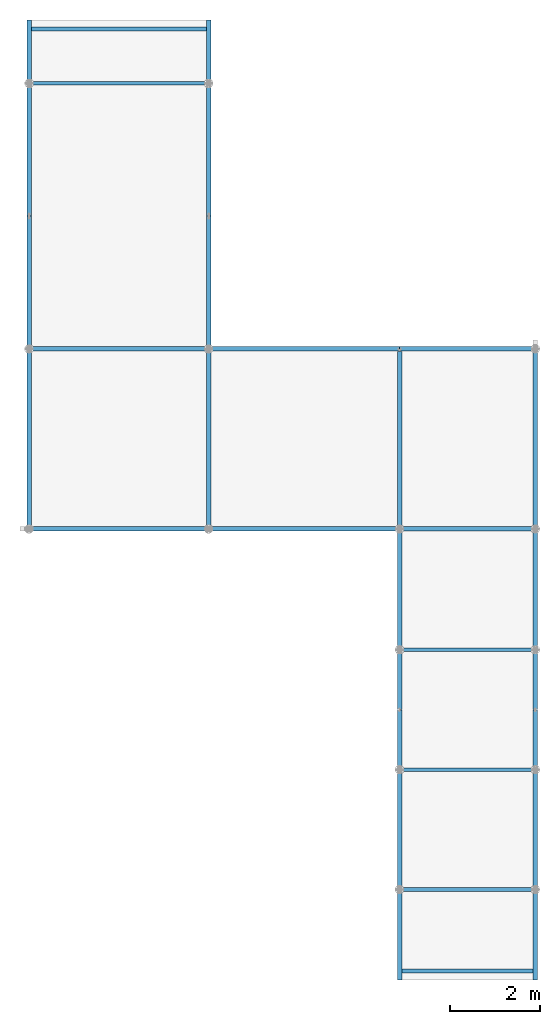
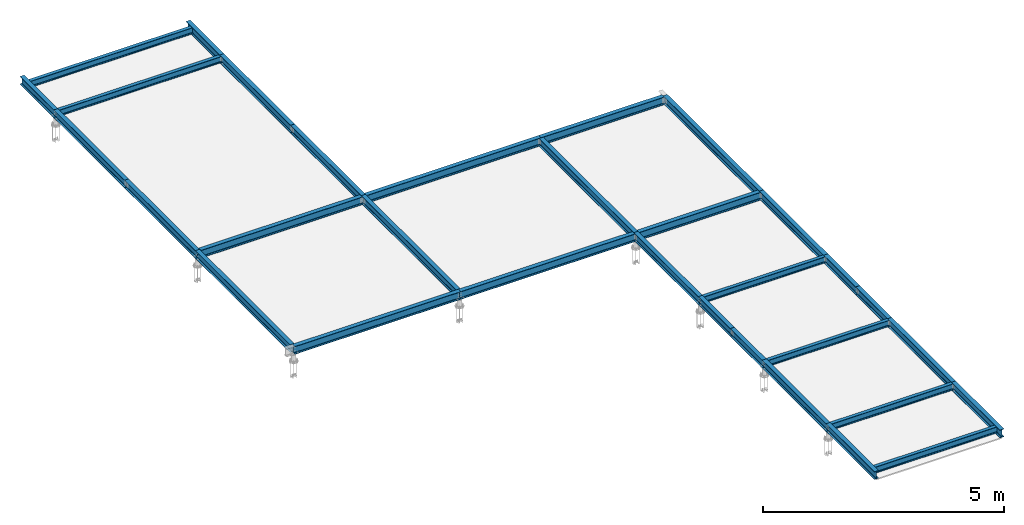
# One storey, part 4 of 84: 32 beams.
"""IFC4 building model written with IfcOpenShell, lengths in metres."""

from ifc_helpers import new_model, si_unit, frame, origin_with_axes, origin_2d_with_axis, place, context, project, spatial, polyline, i_section, extrude, clip, halfspace, bounded_halfspace, material, material_profile, profile_set, profile_usage, type_object, element, save


model = new_model("IFC4")

# Units and contexts
model_context = context("Model", 3, precision=1e-05, world=origin_with_axes())
ifc_project = project(units=[si_unit("LENGTHUNIT", "METRE"), si_unit("AREAUNIT", "SQUARE_METRE"), si_unit("VOLUMEUNIT", "CUBIC_METRE"), si_unit("MASSUNIT", "GRAM", prefix="KILO"), si_unit("TIMEUNIT", "SECOND"), si_unit("PLANEANGLEUNIT", "RADIAN"), si_unit("SOLIDANGLEUNIT", "STERADIAN"), si_unit("THERMODYNAMICTEMPERATUREUNIT", "DEGREE_CELSIUS")], contexts=[model_context])

# Site, building, storey
placement_1 = place(None, origin_with_axes())
site = spatial("IfcSite", under=ifc_project, at=placement_1, Name="Italia", CompositionType="ELEMENT")
building = spatial("IfcBuilding", under=site, at=placement_1, Name="Tettoia", CompositionType="ELEMENT")
storey_placement = place(None, frame((0.0, 0.0, 4.199999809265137), z_axis=(0.0, 0.0, 1.0), x_axis=(1.0, 0.0, 0.0)))
storey = spatial("IfcBuildingStorey", under=building, at=storey_placement, Name="Storey 1", CompositionType="ELEMENT", Elevation=4.199999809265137)

# Beams
ifc_material = material(Name="Acciaio", Category="Acciaio")
ifc_material_profile = material_profile(ifc_material, i_section(OverallWidth=0.082, OverallDepth=0.16, WebThickness=0.005, FlangeThickness=0.0074, FilletRadius=0.009, at=origin_2d_with_axis()), Name="3 IPE160")
ifc_profile_set = profile_set([ifc_material_profile])
beam_type_1 = type_object("IfcBeamType", Name="3 IPE160", PredefinedType="BEAM", material=ifc_profile_set)
placement_2 = place(placement_1, origin_with_axes())
beam_1_placement = place(placement_2, frame((11.283202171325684, 2.000000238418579, 4.299999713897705), z_axis=(0.0, 0.0, 1.0), x_axis=(1.0, 0.0, 0.0)))
element("IfcBeam", 1, at=beam_1_placement, inside=storey, type_object=beam_type_1, Name="102", context=model_context, shape_type="Clipping", body=[
    clip(clip(extrude(i_section(OverallWidth=0.082, OverallDepth=0.16, WebThickness=0.005, FlangeThickness=0.0074, FilletRadius=0.009, at=origin_2d_with_axis()), frame((0.0, 0.0, 0.0), z_axis=(-1.0, 0.0, 0.0), x_axis=(0.0, -1.0, 0.0)), (0.0, 0.0, 1.0), 2.9864), bounded_halfspace(frame((0.0, 0.0, 0.0), z_axis=(-1.0, 0.0, 0.0), x_axis=(0.0, -1.0, 0.0)), True, frame((-1.90735e-06, -0.0410002, 0.0799999), z_axis=(-1.0, 0.0, 0.0), x_axis=(0.0, -1.0, 0.0)), polyline([(-0.0829999, -0.161), (0.001, -0.161), (0.001, 0.001), (-0.0829999, 0.001), (-0.0829999, -0.161)]))), bounded_halfspace(frame((-2.9864, 0.0, 0.0), z_axis=(-1.0, 0.0, 0.0), x_axis=(0.0, -1.0, 0.0)), False, frame((-2.9864, -0.0410002, 0.0799999), z_axis=(-1.0, 0.0, 0.0), x_axis=(0.0, -1.0, 0.0)), polyline([(-0.0829999, -0.161), (0.001, -0.161), (0.001, 0.001), (-0.0829999, 0.001), (-0.0829999, -0.161)]))),
])
ifc_profile_usage_1 = profile_usage(ifc_profile_set, cardinal=8)
beam_type_2 = type_object("IfcBeamType", Name="3 IPE160", PredefinedType="BEAM", material=ifc_profile_usage_1)
beam_2_placement = place(placement_2, frame((11.283202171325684, 0.199999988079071, 4.299999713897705), z_axis=(0.0, 0.0, 1.0), x_axis=(1.0, 0.0, 0.0)))
element("IfcBeam", 2, at=beam_2_placement, inside=storey, type_object=beam_type_2, Name="101", context=model_context, shape_type="Clipping", body=[
    clip(clip(extrude(i_section(OverallWidth=0.082, OverallDepth=0.16, WebThickness=0.005, FlangeThickness=0.0074, FilletRadius=0.009, at=origin_2d_with_axis()), frame((0.0, 0.0, 0.0), z_axis=(-1.0, 0.0, 0.0), x_axis=(0.0, -1.0, 0.0)), (0.0, 0.0, 1.0), 2.9864), bounded_halfspace(frame((0.0, 0.0, 0.0), z_axis=(-1.0, 0.0, 0.0), x_axis=(0.0, -1.0, 0.0)), True, frame((-1.90735e-06, -0.041, 0.0799999), z_axis=(-1.0, 0.0, 0.0), x_axis=(0.0, -1.0, 0.0)), polyline([(-0.083, -0.161), (0.001, -0.161), (0.001, 0.001), (-0.083, 0.001), (-0.083, -0.161)]))), bounded_halfspace(frame((-2.9864, 0.0, 0.0), z_axis=(-1.0, 0.0, 0.0), x_axis=(0.0, -1.0, 0.0)), False, frame((-2.9864, -0.041, 0.0799999), z_axis=(-1.0, 0.0, 0.0), x_axis=(0.0, -1.0, 0.0)), polyline([(-0.083, -0.161), (0.001, -0.161), (0.001, 0.001), (-0.083, 0.001), (-0.083, -0.161)]))),
])
ifc_profile_usage_2 = profile_usage(ifc_profile_set, cardinal=8)
beam_type_3 = type_object("IfcBeamType", Name="9 IPE200", PredefinedType="BEAM", material=ifc_profile_usage_2)
beam_3_placement = place(placement_2, frame((4.0632004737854, 13.950000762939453, 4.299999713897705), z_axis=(0.0, 0.0, 1.0), x_axis=(1.0, 0.0, 0.0)))
element("IfcBeam", 3, at=beam_3_placement, inside=storey, type_object=beam_type_3, Name="106", context=model_context, shape_type="Clipping", body=[
    clip(clip(clip(clip(extrude(i_section(OverallWidth=0.1, OverallDepth=0.2, WebThickness=0.0056, FlangeThickness=0.0085, FilletRadius=0.012, at=origin_2d_with_axis()), frame((0.0, 0.0, 0.0), z_axis=(-1.0, 0.0, 0.0), x_axis=(0.0, -1.0, 0.0)), (0.0, 0.0, 1.0), 3.9564), bounded_halfspace(frame((-0.0472002, -1.90735e-06, -0.0903749), z_axis=(-1.0, 0.0, 0.0), x_axis=(0.0, -1.0, 0.0)), True, frame((-0.0472002, 0.0499992, -0.0999999), z_axis=(-1.0, 0.0, 0.0), x_axis=(0.0, -1.0, 0.0)), polyline([(-0.001, -0.001), (0.101, -0.001), (0.101, 0.0225001), (-0.001, 0.0225001), (-0.001, -0.001)]))), bounded_halfspace(frame((-0.0472002, 0.0, 0.0903754), z_axis=(-1.0, 0.0, 0.0), x_axis=(0.0, -1.0, 0.0)), True, frame((-0.0472002, 0.00279903, 0.0784998), z_axis=(-1.0, 0.0, 0.0), x_axis=(0.0, -1.0, 0.0)), polyline([(-0.0482002, -0.001), (0.0538002, -0.001), (0.0538002, 0.0225001), (-0.0482002, 0.0225001), (-0.0482002, -0.001)]))), bounded_halfspace(frame((-3.9092, -1.90735e-06, -0.0903749), z_axis=(-1.0, 0.0, 0.0), x_axis=(0.0, -1.0, 0.0)), False, frame((-3.9092, 0.0499992, -0.0999999), z_axis=(-1.0, 0.0, 0.0), x_axis=(0.0, -1.0, 0.0)), polyline([(-0.001, -0.001), (0.101, -0.001), (0.101, 0.0225001), (-0.001, 0.0225001), (-0.001, -0.001)]))), bounded_halfspace(frame((-3.9092, 0.0, 0.0903754), z_axis=(-1.0, 0.0, 0.0), x_axis=(0.0, -1.0, 0.0)), False, frame((-3.9092, 0.00279903, 0.0784998), z_axis=(-1.0, 0.0, 0.0), x_axis=(0.0, -1.0, 0.0)), polyline([(-0.0482002, -0.001), (0.0538002, -0.001), (0.0538002, 0.0225001), (-0.0482002, 0.0225001), (-0.0482002, -0.001)]))),
])
ifc_profile_usage_3 = profile_usage(ifc_profile_set, cardinal=8)
beam_type_4 = type_object("IfcBeamType", Name="9 IPE200", PredefinedType="BEAM", material=ifc_profile_usage_3)
beam_4_placement = place(placement_2, origin_with_axes())
element("IfcBeam", 4, at=beam_4_placement, inside=storey, type_object=beam_type_4, Name="109", context=model_context, shape_type="SweptSolid", body=[
    extrude(i_section(OverallWidth=0.1, OverallDepth=0.2, WebThickness=0.0056, FlangeThickness=0.0085, FilletRadius=0.012, at=origin_2d_with_axis()), frame((0.1, 13.95, 4.3), z_axis=(0.0, 1.0, 0.0), x_axis=(-1.0, 0.0, 0.0)), (0.0, 0.0, 1.0), 2.935),
])
ifc_profile_usage_4 = profile_usage(ifc_profile_set, cardinal=8)
beam_type_5 = type_object("IfcBeamType", Name="9 IPE200", PredefinedType="BEAM", material=ifc_profile_usage_4)
beam_5_placement = place(placement_2, frame((11.283202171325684, 13.950000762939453, 4.299999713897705), z_axis=(0.0, 0.0, 1.0), x_axis=(1.0, 0.0, 0.0)))
element("IfcBeam", 5, at=beam_5_placement, inside=storey, type_object=beam_type_5, Name="106", context=model_context, shape_type="Clipping", body=[
    clip(clip(extrude(i_section(OverallWidth=0.1, OverallDepth=0.2, WebThickness=0.0056, FlangeThickness=0.0085, FilletRadius=0.012, at=origin_2d_with_axis()), frame((0.0, 0.0, 0.0), z_axis=(-1.0, 0.0, 0.0), x_axis=(0.0, -1.0, 0.0)), (0.0, 0.0, 1.0), 2.9932), bounded_halfspace(frame((-0.0472021, -1.90735e-06, -0.0903749), z_axis=(-1.0, 0.0, 0.0), x_axis=(0.0, -1.0, 0.0)), True, frame((-0.0472021, 0.0499992, -0.0999999), z_axis=(-1.0, 0.0, 0.0), x_axis=(0.0, -1.0, 0.0)), polyline([(-0.001, -0.001), (0.101, -0.001), (0.101, 0.0225001), (-0.001, 0.0225001), (-0.001, -0.001)]))), bounded_halfspace(frame((-0.0472021, 0.0, 0.0903754), z_axis=(-1.0, 0.0, 0.0), x_axis=(0.0, -1.0, 0.0)), True, frame((-0.0472021, 0.00279903, 0.0784998), z_axis=(-1.0, 0.0, 0.0), x_axis=(0.0, -1.0, 0.0)), polyline([(-0.0482002, -0.001), (0.0538002, -0.001), (0.0538002, 0.0225001), (-0.0482002, 0.0225001), (-0.0482002, -0.001)]))),
])
ifc_profile_usage_5 = profile_usage(ifc_profile_set, cardinal=8)
beam_type_6 = type_object("IfcBeamType", Name="9 IPE200", PredefinedType="BEAM", material=ifc_profile_usage_5)
beam_6_placement = place(placement_2, origin_with_axes())
element("IfcBeam", 6, at=beam_6_placement, inside=storey, type_object=beam_type_6, Name="110", context=model_context, shape_type="SweptSolid", body=[
    extrude(i_section(OverallWidth=0.1, OverallDepth=0.2, WebThickness=0.0056, FlangeThickness=0.0085, FilletRadius=0.012, at=origin_2d_with_axis()), frame((4.07, 19.82, 4.3), z_axis=(0.0, 1.0, 0.0), x_axis=(-1.0, 0.0, 0.0)), (0.0, 0.0, 1.0), 1.4),
])
ifc_profile_usage_6 = profile_usage(ifc_profile_set, cardinal=8)
beam_type_7 = type_object("IfcBeamType", Name="9 IPE200", PredefinedType="BEAM", material=ifc_profile_usage_6)
beam_7_placement = place(placement_2, origin_with_axes())
element("IfcBeam", 7, at=beam_7_placement, inside=storey, type_object=beam_type_7, Name="110", context=model_context, shape_type="SweptSolid", body=[
    extrude(i_section(OverallWidth=0.1, OverallDepth=0.2, WebThickness=0.0056, FlangeThickness=0.0085, FilletRadius=0.012, at=origin_2d_with_axis()), frame((4.07, 13.95, 4.3), z_axis=(0.0, 1.0, 0.0), x_axis=(-1.0, 0.0, 0.0)), (0.0, 0.0, 1.0), 2.935),
])
ifc_profile_usage_7 = profile_usage(ifc_profile_set, cardinal=8)
beam_type_8 = type_object("IfcBeamType", Name="9 IPE200", PredefinedType="BEAM", material=ifc_profile_usage_7)
beam_8_placement = place(placement_2, frame((0.100000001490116, 9.976799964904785, 4.299999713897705), z_axis=(0.0, 0.0, 1.0), x_axis=(1.0, 0.0, 0.0)))
element("IfcBeam", 8, at=beam_8_placement, inside=storey, type_object=beam_type_8, Name="109", context=model_context, shape_type="Clipping", body=[
    clip(clip(extrude(i_section(OverallWidth=0.1, OverallDepth=0.2, WebThickness=0.0056, FlangeThickness=0.0085, FilletRadius=0.012, at=origin_2d_with_axis()), frame((0.0, 0.0, 0.0), z_axis=(0.0, 1.0, 0.0), x_axis=(-1.0, 0.0, 0.0)), (0.0, 0.0, 1.0), 3.9732), bounded_halfspace(frame((0.0, 0.0472012, -0.0903749), z_axis=(0.0, 1.0, 0.0), x_axis=(-1.0, 0.0, 0.0)), True, frame((0.05, 0.0472002, -0.0999999), z_axis=(0.0, 1.0, 0.0), x_axis=(-1.0, 0.0, 0.0)), polyline([(-0.001, -0.001), (0.101, -0.001), (0.101, 0.0225001), (-0.001, 0.0225001), (-0.001, -0.001)]))), bounded_halfspace(frame((0.0, 0.0472012, 0.0903754), z_axis=(0.0, 1.0, 0.0), x_axis=(-1.0, 0.0, 0.0)), True, frame((0.0028, 0.0472002, 0.0784998), z_axis=(0.0, 1.0, 0.0), x_axis=(-1.0, 0.0, 0.0)), polyline([(-0.0482, -0.001), (0.0538, -0.001), (0.0538, 0.0225001), (-0.0482, 0.0225001), (-0.0482, -0.001)]))),
])
ifc_profile_usage_8 = profile_usage(ifc_profile_set, cardinal=8)
beam_type_9 = type_object("IfcBeamType", Name="9 IPE200", PredefinedType="BEAM", material=ifc_profile_usage_8)
beam_9_placement = place(placement_2, origin_with_axes())
element("IfcBeam", 9, at=beam_9_placement, inside=storey, type_object=beam_type_9, Name="105", context=model_context, shape_type="SweptSolid", body=[
    extrude(i_section(OverallWidth=0.1, OverallDepth=0.2, WebThickness=0.0056, FlangeThickness=0.0085, FilletRadius=0.012, at=origin_2d_with_axis()), frame((4.07, 9.97, 4.3), z_axis=(-1.0, 0.0, 0.0), x_axis=(0.0, -1.0, 0.0)), (0.0, 0.0, 1.0), 3.97),
])
ifc_profile_usage_9 = profile_usage(ifc_profile_set, cardinal=8)
beam_type_10 = type_object("IfcBeamType", Name="9 IPE200", PredefinedType="BEAM", material=ifc_profile_usage_9)
beam_10_placement = place(placement_2, frame((8.283201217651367, 9.970001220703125, 4.299999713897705), z_axis=(0.0, 0.0, 1.0), x_axis=(1.0, 0.0, 0.0)))
element("IfcBeam", 10, at=beam_10_placement, inside=storey, type_object=beam_type_10, Name="105", context=model_context, shape_type="Clipping", body=[
    clip(clip(extrude(i_section(OverallWidth=0.1, OverallDepth=0.2, WebThickness=0.0056, FlangeThickness=0.0085, FilletRadius=0.012, at=origin_2d_with_axis()), frame((0.0, 0.0, 0.0), z_axis=(-1.0, 0.0, 0.0), x_axis=(0.0, -1.0, 0.0)), (0.0, 0.0, 1.0), 4.2132), bounded_halfspace(frame((-0.0472012, -9.53674e-07, -0.0903749), z_axis=(-1.0, 0.0, 0.0), x_axis=(0.0, -1.0, 0.0)), True, frame((-0.0472012, 0.0499992, -0.0999999), z_axis=(-1.0, 0.0, 0.0), x_axis=(0.0, -1.0, 0.0)), polyline([(-0.001, -0.001), (0.101, -0.001), (0.101, 0.0225001), (-0.001, 0.0225001), (-0.001, -0.001)]))), bounded_halfspace(frame((-0.0472012, -1.90735e-06, 0.0903754), z_axis=(-1.0, 0.0, 0.0), x_axis=(0.0, -1.0, 0.0)), True, frame((-0.0472012, 0.00279903, 0.0784998), z_axis=(-1.0, 0.0, 0.0), x_axis=(0.0, -1.0, 0.0)), polyline([(-0.0482002, -0.001), (0.0538002, -0.001), (0.0538002, 0.0225001), (-0.0482002, 0.0225001), (-0.0482002, -0.001)]))),
])
ifc_profile_usage_10 = profile_usage(ifc_profile_set, cardinal=8)
beam_type_11 = type_object("IfcBeamType", Name="9 IPE200", PredefinedType="BEAM", material=ifc_profile_usage_10)
beam_11_placement = place(placement_2, frame((4.069999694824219, 9.976799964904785, 4.299999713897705), z_axis=(0.0, 0.0, 1.0), x_axis=(1.0, 0.0, 0.0)))
element("IfcBeam", 11, at=beam_11_placement, inside=storey, type_object=beam_type_11, Name="110", context=model_context, shape_type="Clipping", body=[
    clip(clip(extrude(i_section(OverallWidth=0.1, OverallDepth=0.2, WebThickness=0.0056, FlangeThickness=0.0085, FilletRadius=0.012, at=origin_2d_with_axis()), frame((0.0, 0.0, 0.0), z_axis=(0.0, 1.0, 0.0), x_axis=(-1.0, 0.0, 0.0)), (0.0, 0.0, 1.0), 3.9732), bounded_halfspace(frame((4.76837e-07, 0.0472012, -0.0903749), z_axis=(0.0, 1.0, 0.0), x_axis=(-1.0, 0.0, 0.0)), True, frame((0.0500007, 0.0472002, -0.0999999), z_axis=(0.0, 1.0, 0.0), x_axis=(-1.0, 0.0, 0.0)), polyline([(-0.001, -0.001), (0.101, -0.001), (0.101, 0.0225001), (-0.001, 0.0225001), (-0.001, -0.001)]))), bounded_halfspace(frame((4.76837e-07, 0.0472012, 0.0903754), z_axis=(0.0, 1.0, 0.0), x_axis=(-1.0, 0.0, 0.0)), True, frame((0.00280046, 0.0472002, 0.0784998), z_axis=(0.0, 1.0, 0.0), x_axis=(-1.0, 0.0, 0.0)), polyline([(-0.0482002, -0.001), (0.0538002, -0.001), (0.0538002, 0.0225001), (-0.0482002, 0.0225001), (-0.0482002, -0.001)]))),
])
ifc_profile_usage_11 = profile_usage(ifc_profile_set, cardinal=8)
beam_type_12 = type_object("IfcBeamType", Name="9 IPE200", PredefinedType="BEAM", material=ifc_profile_usage_11)
beam_12_placement = place(placement_2, origin_with_axes())
element("IfcBeam", 12, at=beam_12_placement, inside=storey, type_object=beam_type_12, Name="109", context=model_context, shape_type="SweptSolid", body=[
    extrude(i_section(OverallWidth=0.1, OverallDepth=0.2, WebThickness=0.0056, FlangeThickness=0.0085, FilletRadius=0.012, at=origin_2d_with_axis()), frame((0.1, 19.82, 4.3), z_axis=(0.0, 1.0, 0.0), x_axis=(-1.0, 0.0, 0.0)), (0.0, 0.0, 1.0), 1.4),
])
ifc_profile_usage_12 = profile_usage(ifc_profile_set, cardinal=8)
beam_type_13 = type_object("IfcBeamType", Name="9 IPE200", PredefinedType="BEAM", material=ifc_profile_usage_12)
beam_13_placement = place(placement_2, frame((4.069999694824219, 15.417499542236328, 4.299999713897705), z_axis=(0.0, 0.0, 1.0), x_axis=(1.0, 0.0, 0.0)))
element("IfcBeam", 13, at=beam_13_placement, inside=storey, type_object=beam_type_13, Name="110", context=model_context, shape_type="Clipping", body=[
    clip(extrude(i_section(OverallWidth=0.1, OverallDepth=0.2, WebThickness=0.0056, FlangeThickness=0.0085, FilletRadius=0.012, at=origin_2d_with_axis()), frame((0.0, 0.0, 0.0), z_axis=(0.0, 1.0, 0.0), x_axis=(-1.0, 0.0, 0.0)), (0.0, 0.0, 1.0), 4.4025), halfspace(frame((4.76837e-07, 1.4715, 0.0), z_axis=(0.0, -1.0, 0.0), x_axis=(1.0, 0.0, 0.0)), False)),
])
ifc_profile_usage_13 = profile_usage(ifc_profile_set, cardinal=8)
beam_type_14 = type_object("IfcBeamType", Name="9 IPE200", PredefinedType="BEAM", material=ifc_profile_usage_13)
beam_14_placement = place(placement_2, frame((0.100000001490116, 15.417499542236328, 4.299999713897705), z_axis=(0.0, 0.0, 1.0), x_axis=(1.0, 0.0, 0.0)))
element("IfcBeam", 14, at=beam_14_placement, inside=storey, type_object=beam_type_14, Name="109", context=model_context, shape_type="Clipping", body=[
    clip(extrude(i_section(OverallWidth=0.1, OverallDepth=0.2, WebThickness=0.0056, FlangeThickness=0.0085, FilletRadius=0.012, at=origin_2d_with_axis()), frame((0.0, 0.0, 0.0), z_axis=(0.0, 1.0, 0.0), x_axis=(-1.0, 0.0, 0.0)), (0.0, 0.0, 1.0), 4.4025), halfspace(frame((0.0, 1.4715, 0.0), z_axis=(0.0, -1.0, 0.0), x_axis=(1.0, 0.0, 0.0)), False)),
])
ifc_profile_usage_14 = profile_usage(ifc_profile_set, cardinal=8)
beam_type_15 = type_object("IfcBeamType", Name="9 IPE200", PredefinedType="BEAM", material=ifc_profile_usage_14)
beam_15_placement = place(placement_2, origin_with_axes())
element("IfcBeam", 15, at=beam_15_placement, inside=storey, type_object=beam_type_15, Name="112", context=model_context, shape_type="SweptSolid", body=[
    extrude(i_section(OverallWidth=0.1, OverallDepth=0.2, WebThickness=0.0056, FlangeThickness=0.0085, FilletRadius=0.012, at=origin_2d_with_axis()), frame((11.29, 5.975, 4.3), z_axis=(0.0, 1.0, 0.0), x_axis=(-1.0, 0.0, 0.0)), (0.0, 0.0, 1.0), 1.325),
])
ifc_profile_usage_15 = profile_usage(ifc_profile_set, cardinal=8)
beam_type_16 = type_object("IfcBeamType", Name="3 IPE160", PredefinedType="BEAM", material=ifc_profile_usage_15)
beam_16_placement = place(placement_2, frame((4.0632004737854, 19.819997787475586, 4.299999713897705), z_axis=(0.0, 0.0, 1.0), x_axis=(1.0, 0.0, 0.0)))
element("IfcBeam", 16, at=beam_16_placement, inside=storey, type_object=beam_type_16, Name="107", context=model_context, shape_type="Clipping", body=[
    clip(clip(extrude(i_section(OverallWidth=0.082, OverallDepth=0.16, WebThickness=0.005, FlangeThickness=0.0074, FilletRadius=0.009, at=origin_2d_with_axis()), frame((0.0, 0.0, 0.0), z_axis=(-1.0, 0.0, 0.0), x_axis=(0.0, -1.0, 0.0)), (0.0, 0.0, 1.0), 3.9564), bounded_halfspace(frame((0.0, 0.0, 0.0), z_axis=(-1.0, 0.0, 0.0), x_axis=(0.0, -1.0, 0.0)), True, frame((-4.76837e-07, -0.0409985, 0.0799999), z_axis=(-1.0, 0.0, 0.0), x_axis=(0.0, -1.0, 0.0)), polyline([(-0.0830007, -0.161), (0.001, -0.161), (0.001, 0.001), (-0.0830007, 0.001), (-0.0830007, -0.161)]))), bounded_halfspace(frame((-3.9564, 0.0, 0.0), z_axis=(-1.0, 0.0, 0.0), x_axis=(0.0, -1.0, 0.0)), False, frame((-3.9564, -0.0409985, 0.0799999), z_axis=(-1.0, 0.0, 0.0), x_axis=(0.0, -1.0, 0.0)), polyline([(-0.0830007, -0.161), (0.001, -0.161), (0.001, 0.001), (-0.0830007, 0.001), (-0.0830007, -0.161)]))),
])
ifc_profile_usage_16 = profile_usage(ifc_profile_set, cardinal=8)
beam_type_17 = type_object("IfcBeamType", Name="9 IPE200", PredefinedType="BEAM", material=ifc_profile_usage_16)
beam_17_placement = place(placement_2, frame((11.283202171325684, 9.970001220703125, 4.299999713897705), z_axis=(0.0, 0.0, 1.0), x_axis=(1.0, 0.0, 0.0)))
element("IfcBeam", 17, at=beam_17_placement, inside=storey, type_object=beam_type_17, Name="105", context=model_context, shape_type="Clipping", body=[
    clip(clip(clip(clip(extrude(i_section(OverallWidth=0.1, OverallDepth=0.2, WebThickness=0.0056, FlangeThickness=0.0085, FilletRadius=0.012, at=origin_2d_with_axis()), frame((0.0, 0.0, 0.0), z_axis=(-1.0, 0.0, 0.0), x_axis=(0.0, -1.0, 0.0)), (0.0, 0.0, 1.0), 2.9864), bounded_halfspace(frame((-0.0472021, -9.53674e-07, -0.0903749), z_axis=(-1.0, 0.0, 0.0), x_axis=(0.0, -1.0, 0.0)), True, frame((-0.0472021, 0.0499992, -0.0999999), z_axis=(-1.0, 0.0, 0.0), x_axis=(0.0, -1.0, 0.0)), polyline([(-0.001, -0.001), (0.101, -0.001), (0.101, 0.0225001), (-0.001, 0.0225001), (-0.001, -0.001)]))), bounded_halfspace(frame((-0.0472021, -1.90735e-06, 0.0903754), z_axis=(-1.0, 0.0, 0.0), x_axis=(0.0, -1.0, 0.0)), True, frame((-0.0472021, 0.00279903, 0.0784998), z_axis=(-1.0, 0.0, 0.0), x_axis=(0.0, -1.0, 0.0)), polyline([(-0.0482002, -0.001), (0.0538002, -0.001), (0.0538002, 0.0225001), (-0.0482002, 0.0225001), (-0.0482002, -0.001)]))), bounded_halfspace(frame((-2.9392, -9.53674e-07, -0.0903749), z_axis=(-1.0, 0.0, 0.0), x_axis=(0.0, -1.0, 0.0)), False, frame((-2.9392, 0.0499992, -0.0999999), z_axis=(-1.0, 0.0, 0.0), x_axis=(0.0, -1.0, 0.0)), polyline([(-0.001, -0.001), (0.101, -0.001), (0.101, 0.0225001), (-0.001, 0.0225001), (-0.001, -0.001)]))), bounded_halfspace(frame((-2.9392, -1.90735e-06, 0.0903754), z_axis=(-1.0, 0.0, 0.0), x_axis=(0.0, -1.0, 0.0)), False, frame((-2.9392, 0.00279903, 0.0784998), z_axis=(-1.0, 0.0, 0.0), x_axis=(0.0, -1.0, 0.0)), polyline([(-0.0482002, -0.001), (0.0538002, -0.001), (0.0538002, 0.0225001), (-0.0482002, 0.0225001), (-0.0482002, -0.001)]))),
])
ifc_profile_usage_17 = profile_usage(ifc_profile_set, cardinal=8)
beam_type_18 = type_object("IfcBeamType", Name="9 IPE200", PredefinedType="BEAM", material=ifc_profile_usage_17)
beam_18_placement = place(placement_2, origin_with_axes())
element("IfcBeam", 18, at=beam_18_placement, inside=storey, type_object=beam_type_18, Name="111", context=model_context, shape_type="SweptSolid", body=[
    extrude(i_section(OverallWidth=0.1, OverallDepth=0.2, WebThickness=0.0056, FlangeThickness=0.0085, FilletRadius=0.012, at=origin_2d_with_axis()), frame((8.29, 7.3, 4.3), z_axis=(0.0, 1.0, 0.0), x_axis=(-1.0, 0.0, 0.0)), (0.0, 0.0, 1.0), 2.67),
])
ifc_profile_usage_18 = profile_usage(ifc_profile_set, cardinal=8)
beam_type_19 = type_object("IfcBeamType", Name="9 IPE200", PredefinedType="BEAM", material=ifc_profile_usage_18)
beam_19_placement = place(placement_2, frame((8.289999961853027, 4.65000057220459, 4.299999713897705), z_axis=(0.0, 0.0, 1.0), x_axis=(1.0, 0.0, 0.0)))
element("IfcBeam", 19, at=beam_19_placement, inside=storey, type_object=beam_type_19, Name="111", context=model_context, shape_type="Clipping", body=[
    clip(extrude(i_section(OverallWidth=0.1, OverallDepth=0.2, WebThickness=0.0056, FlangeThickness=0.0085, FilletRadius=0.012, at=origin_2d_with_axis()), frame((0.0, 0.0, 0.0), z_axis=(0.0, 1.0, 0.0), x_axis=(-1.0, 0.0, 0.0)), (0.0, 0.0, 1.0), 1.9875), halfspace(frame((0.0, 1.321, 0.0), z_axis=(0.0, -1.0, 0.0), x_axis=(1.0, 0.0, 0.0)), True)),
])
ifc_profile_usage_19 = profile_usage(ifc_profile_set, cardinal=8)
beam_type_20 = type_object("IfcBeamType", Name="9 IPE200", PredefinedType="BEAM", material=ifc_profile_usage_19)
beam_20_placement = place(placement_2, origin_with_axes())
element("IfcBeam", 20, at=beam_20_placement, inside=storey, type_object=beam_type_20, Name="111", context=model_context, shape_type="SweptSolid", body=[
    extrude(i_section(OverallWidth=0.1, OverallDepth=0.2, WebThickness=0.0056, FlangeThickness=0.0085, FilletRadius=0.012, at=origin_2d_with_axis()), frame((8.29, 2.0, 4.3), z_axis=(0.0, 1.0, 0.0), x_axis=(-1.0, 0.0, 0.0)), (0.0, 0.0, 1.0), 2.65),
])
ifc_profile_usage_20 = profile_usage(ifc_profile_set, cardinal=8)
beam_type_21 = type_object("IfcBeamType", Name="3 IPE160", PredefinedType="BEAM", material=ifc_profile_usage_20)
beam_21_placement = place(placement_2, frame((4.0632004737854, 21.020002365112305, 4.299999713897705), z_axis=(0.0, 0.0, 1.0), x_axis=(1.0, 0.0, 0.0)))
element("IfcBeam", 21, at=beam_21_placement, inside=storey, type_object=beam_type_21, Name="108", context=model_context, shape_type="Clipping", body=[
    clip(clip(extrude(i_section(OverallWidth=0.082, OverallDepth=0.16, WebThickness=0.005, FlangeThickness=0.0074, FilletRadius=0.009, at=origin_2d_with_axis()), frame((0.0, 0.0, 0.0), z_axis=(-1.0, 0.0, 0.0), x_axis=(0.0, -1.0, 0.0)), (0.0, 0.0, 1.0), 3.9564), bounded_halfspace(frame((0.0, 0.0, 0.0), z_axis=(-1.0, 0.0, 0.0), x_axis=(0.0, -1.0, 0.0)), True, frame((-4.76837e-07, -0.0410023, 0.0799999), z_axis=(-1.0, 0.0, 0.0), x_axis=(0.0, -1.0, 0.0)), polyline([(-0.0829988, -0.161), (0.001, -0.161), (0.001, 0.001), (-0.0829988, 0.001), (-0.0829988, -0.161)]))), bounded_halfspace(frame((-3.9564, 0.0, 0.0), z_axis=(-1.0, 0.0, 0.0), x_axis=(0.0, -1.0, 0.0)), False, frame((-3.9564, -0.0410023, 0.0799999), z_axis=(-1.0, 0.0, 0.0), x_axis=(0.0, -1.0, 0.0)), polyline([(-0.0829988, -0.161), (0.001, -0.161), (0.001, 0.001), (-0.0829988, 0.001), (-0.0829988, -0.161)]))),
])
ifc_profile_usage_21 = profile_usage(ifc_profile_set, cardinal=8)
beam_type_22 = type_object("IfcBeamType", Name="9 IPE200", PredefinedType="BEAM", material=ifc_profile_usage_21)
beam_22_placement = place(placement_2, origin_with_axes())
element("IfcBeam", 22, at=beam_22_placement, inside=storey, type_object=beam_type_22, Name="111", context=model_context, shape_type="SweptSolid", body=[
    extrude(i_section(OverallWidth=0.1, OverallDepth=0.2, WebThickness=0.0056, FlangeThickness=0.0085, FilletRadius=0.012, at=origin_2d_with_axis()), frame((8.29, 0.0, 4.3), z_axis=(0.0, 1.0, 0.0), x_axis=(-1.0, 0.0, 0.0)), (0.0, 0.0, 1.0), 2.0),
])
ifc_profile_usage_22 = profile_usage(ifc_profile_set, cardinal=8)
beam_type_23 = type_object("IfcBeamType", Name="9 IPE200", PredefinedType="BEAM", material=ifc_profile_usage_22)
beam_23_placement = place(placement_2, origin_with_axes())
element("IfcBeam", 23, at=beam_23_placement, inside=storey, type_object=beam_type_23, Name="112", context=model_context, shape_type="SweptSolid", body=[
    extrude(i_section(OverallWidth=0.1, OverallDepth=0.2, WebThickness=0.0056, FlangeThickness=0.0085, FilletRadius=0.012, at=origin_2d_with_axis()), frame((11.29, 9.97, 4.3), z_axis=(0.0, 1.0, 0.0), x_axis=(-1.0, 0.0, 0.0)), (0.0, 0.0, 1.0), 3.98),
])
ifc_profile_usage_23 = profile_usage(ifc_profile_set, cardinal=8)
beam_type_24 = type_object("IfcBeamType", Name="9 IPE200", PredefinedType="BEAM", material=ifc_profile_usage_23)
beam_24_placement = place(placement_2, origin_with_axes())
element("IfcBeam", 24, at=beam_24_placement, inside=storey, type_object=beam_type_24, Name="112", context=model_context, shape_type="SweptSolid", body=[
    extrude(i_section(OverallWidth=0.1, OverallDepth=0.2, WebThickness=0.0056, FlangeThickness=0.0085, FilletRadius=0.012, at=origin_2d_with_axis()), frame((11.29, 7.3, 4.3), z_axis=(0.0, 1.0, 0.0), x_axis=(-1.0, 0.0, 0.0)), (0.0, 0.0, 1.0), 2.67),
])
ifc_profile_usage_24 = profile_usage(ifc_profile_set, cardinal=8)
beam_type_25 = type_object("IfcBeamType", Name="9 IPE200", PredefinedType="BEAM", material=ifc_profile_usage_24)
beam_25_placement = place(placement_2, origin_with_axes())
element("IfcBeam", 25, at=beam_25_placement, inside=storey, type_object=beam_type_25, Name="111", context=model_context, shape_type="SweptSolid", body=[
    extrude(i_section(OverallWidth=0.1, OverallDepth=0.2, WebThickness=0.0056, FlangeThickness=0.0085, FilletRadius=0.012, at=origin_2d_with_axis()), frame((8.29, 5.975, 4.3), z_axis=(0.0, 1.0, 0.0), x_axis=(-1.0, 0.0, 0.0)), (0.0, 0.0, 1.0), 1.325),
])
ifc_profile_usage_25 = profile_usage(ifc_profile_set, cardinal=8)
beam_type_26 = type_object("IfcBeamType", Name="9 IPE200", PredefinedType="BEAM", material=ifc_profile_usage_25)
beam_26_placement = place(placement_2, frame((11.289999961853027, 4.65000057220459, 4.299999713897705), z_axis=(0.0, 0.0, 1.0), x_axis=(1.0, 0.0, 0.0)))
element("IfcBeam", 26, at=beam_26_placement, inside=storey, type_object=beam_type_26, Name="112", context=model_context, shape_type="Clipping", body=[
    clip(extrude(i_section(OverallWidth=0.1, OverallDepth=0.2, WebThickness=0.0056, FlangeThickness=0.0085, FilletRadius=0.012, at=origin_2d_with_axis()), frame((0.0, 0.0, 0.0), z_axis=(0.0, 1.0, 0.0), x_axis=(-1.0, 0.0, 0.0)), (0.0, 0.0, 1.0), 1.9875), halfspace(frame((0.0, 1.321, 0.0), z_axis=(0.0, -1.0, 0.0), x_axis=(1.0, 0.0, 0.0)), True)),
])
ifc_profile_usage_26 = profile_usage(ifc_profile_set, cardinal=8)
beam_type_27 = type_object("IfcBeamType", Name="9 IPE200", PredefinedType="BEAM", material=ifc_profile_usage_26)
beam_27_placement = place(placement_2, frame((8.289999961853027, 9.970000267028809, 4.299999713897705), z_axis=(0.0, 0.0, 1.0), x_axis=(1.0, 0.0, 0.0)))
element("IfcBeam", 27, at=beam_27_placement, inside=storey, type_object=beam_type_27, Name="111", context=model_context, shape_type="Clipping", body=[
    clip(clip(extrude(i_section(OverallWidth=0.1, OverallDepth=0.2, WebThickness=0.0056, FlangeThickness=0.0085, FilletRadius=0.012, at=origin_2d_with_axis()), frame((0.0, 0.0, 0.0), z_axis=(0.0, 1.0, 0.0), x_axis=(-1.0, 0.0, 0.0)), (0.0, 0.0, 1.0), 3.9732), bounded_halfspace(frame((0.0, 3.926, -0.0903749), z_axis=(0.0, 1.0, 0.0), x_axis=(-1.0, 0.0, 0.0)), False, frame((0.0500002, 3.926, -0.0999999), z_axis=(0.0, 1.0, 0.0), x_axis=(-1.0, 0.0, 0.0)), polyline([(-0.001, -0.001), (0.101, -0.001), (0.101, 0.0225001), (-0.001, 0.0225001), (-0.001, -0.001)]))), bounded_halfspace(frame((0.0, 3.926, 0.0903754), z_axis=(0.0, 1.0, 0.0), x_axis=(-1.0, 0.0, 0.0)), False, frame((0.00279999, 3.926, 0.0784998), z_axis=(0.0, 1.0, 0.0), x_axis=(-1.0, 0.0, 0.0)), polyline([(-0.0482002, -0.001), (0.0538002, -0.001), (0.0538002, 0.0225001), (-0.0482002, 0.0225001), (-0.0482002, -0.001)]))),
])
ifc_profile_usage_27 = profile_usage(ifc_profile_set, cardinal=8)
beam_type_28 = type_object("IfcBeamType", Name="9 IPE200", PredefinedType="BEAM", material=ifc_profile_usage_27)
beam_28_placement = place(placement_2, frame((8.289999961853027, 13.950000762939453, 4.299999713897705), z_axis=(0.0, 0.0, 1.0), x_axis=(1.0, 0.0, 0.0)))
element("IfcBeam", 28, at=beam_28_placement, inside=storey, type_object=beam_type_28, Name="106", context=model_context, shape_type="Clipping", body=[
    clip(clip(extrude(i_section(OverallWidth=0.1, OverallDepth=0.2, WebThickness=0.0056, FlangeThickness=0.0085, FilletRadius=0.012, at=origin_2d_with_axis()), frame((0.0, 0.0, 0.0), z_axis=(-1.0, 0.0, 0.0), x_axis=(0.0, -1.0, 0.0)), (0.0, 0.0, 1.0), 4.2132), bounded_halfspace(frame((-4.166, -1.90735e-06, -0.0903749), z_axis=(-1.0, 0.0, 0.0), x_axis=(0.0, -1.0, 0.0)), False, frame((-4.166, 0.0499992, -0.0999999), z_axis=(-1.0, 0.0, 0.0), x_axis=(0.0, -1.0, 0.0)), polyline([(-0.001, -0.001), (0.101, -0.001), (0.101, 0.0225001), (-0.001, 0.0225001), (-0.001, -0.001)]))), bounded_halfspace(frame((-4.166, 0.0, 0.0903754), z_axis=(-1.0, 0.0, 0.0), x_axis=(0.0, -1.0, 0.0)), False, frame((-4.166, 0.00279903, 0.0784998), z_axis=(-1.0, 0.0, 0.0), x_axis=(0.0, -1.0, 0.0)), polyline([(-0.0482002, -0.001), (0.0538002, -0.001), (0.0538002, 0.0225001), (-0.0482002, 0.0225001), (-0.0482002, -0.001)]))),
])
ifc_profile_usage_28 = profile_usage(ifc_profile_set, cardinal=8)
beam_type_29 = type_object("IfcBeamType", Name="9 IPE200", PredefinedType="BEAM", material=ifc_profile_usage_28)
beam_29_placement = place(placement_2, origin_with_axes())
element("IfcBeam", 29, at=beam_29_placement, inside=storey, type_object=beam_type_29, Name="112", context=model_context, shape_type="SweptSolid", body=[
    extrude(i_section(OverallWidth=0.1, OverallDepth=0.2, WebThickness=0.0056, FlangeThickness=0.0085, FilletRadius=0.012, at=origin_2d_with_axis()), frame((11.29, 2.0, 4.3), z_axis=(0.0, 1.0, 0.0), x_axis=(-1.0, 0.0, 0.0)), (0.0, 0.0, 1.0), 2.65),
])
ifc_profile_usage_29 = profile_usage(ifc_profile_set, cardinal=8)
beam_type_30 = type_object("IfcBeamType", Name="3 IPE160", PredefinedType="BEAM", material=ifc_profile_usage_29)
beam_30_placement = place(placement_2, frame((11.283202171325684, 7.299999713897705, 4.299999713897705), z_axis=(0.0, 0.0, 1.0), x_axis=(1.0, 0.0, 0.0)))
element("IfcBeam", 30, at=beam_30_placement, inside=storey, type_object=beam_type_30, Name="104", context=model_context, shape_type="Clipping", body=[
    clip(clip(extrude(i_section(OverallWidth=0.082, OverallDepth=0.16, WebThickness=0.005, FlangeThickness=0.0074, FilletRadius=0.009, at=origin_2d_with_axis()), frame((0.0, 0.0, 0.0), z_axis=(-1.0, 0.0, 0.0), x_axis=(0.0, -1.0, 0.0)), (0.0, 0.0, 1.0), 2.9864), bounded_halfspace(frame((0.0, 0.0, 0.0), z_axis=(-1.0, 0.0, 0.0), x_axis=(0.0, -1.0, 0.0)), True, frame((-1.90735e-06, -0.0409994, 0.0799999), z_axis=(-1.0, 0.0, 0.0), x_axis=(0.0, -1.0, 0.0)), polyline([(-0.0829998, -0.161), (0.001, -0.161), (0.001, 0.001), (-0.0829998, 0.001), (-0.0829998, -0.161)]))), bounded_halfspace(frame((-2.9864, 0.0, 0.0), z_axis=(-1.0, 0.0, 0.0), x_axis=(0.0, -1.0, 0.0)), False, frame((-2.9864, -0.0409994, 0.0799999), z_axis=(-1.0, 0.0, 0.0), x_axis=(0.0, -1.0, 0.0)), polyline([(-0.0829998, -0.161), (0.001, -0.161), (0.001, 0.001), (-0.0829998, 0.001), (-0.0829998, -0.161)]))),
])
ifc_profile_usage_30 = profile_usage(ifc_profile_set, cardinal=8)
beam_type_31 = type_object("IfcBeamType", Name="3 IPE160", PredefinedType="BEAM", material=ifc_profile_usage_30)
beam_31_placement = place(placement_2, frame((11.283202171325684, 4.650000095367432, 4.299999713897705), z_axis=(0.0, 0.0, 1.0), x_axis=(1.0, 0.0, 0.0)))
element("IfcBeam", 31, at=beam_31_placement, inside=storey, type_object=beam_type_31, Name="103", context=model_context, shape_type="Clipping", body=[
    clip(clip(extrude(i_section(OverallWidth=0.082, OverallDepth=0.16, WebThickness=0.005, FlangeThickness=0.0074, FilletRadius=0.009, at=origin_2d_with_axis()), frame((0.0, 0.0, 0.0), z_axis=(-1.0, 0.0, 0.0), x_axis=(0.0, -1.0, 0.0)), (0.0, 0.0, 1.0), 2.9864), bounded_halfspace(frame((0.0, 0.0, 0.0), z_axis=(-1.0, 0.0, 0.0), x_axis=(0.0, -1.0, 0.0)), True, frame((-1.90735e-06, -0.0409999, 0.0799999), z_axis=(-1.0, 0.0, 0.0), x_axis=(0.0, -1.0, 0.0)), polyline([(-0.0829998, -0.161), (0.001, -0.161), (0.001, 0.001), (-0.0829998, 0.001), (-0.0829998, -0.161)]))), bounded_halfspace(frame((-2.9864, 0.0, 0.0), z_axis=(-1.0, 0.0, 0.0), x_axis=(0.0, -1.0, 0.0)), False, frame((-2.9864, -0.0409999, 0.0799999), z_axis=(-1.0, 0.0, 0.0), x_axis=(0.0, -1.0, 0.0)), polyline([(-0.0829998, -0.161), (0.001, -0.161), (0.001, 0.001), (-0.0829998, 0.001), (-0.0829998, -0.161)]))),
])
ifc_profile_usage_31 = profile_usage(ifc_profile_set, cardinal=8)
beam_type_32 = type_object("IfcBeamType", Name="9 IPE200", PredefinedType="BEAM", material=ifc_profile_usage_31)
beam_32_placement = place(placement_2, origin_with_axes())
element("IfcBeam", 32, at=beam_32_placement, inside=storey, type_object=beam_type_32, Name="112", context=model_context, shape_type="SweptSolid", body=[
    extrude(i_section(OverallWidth=0.1, OverallDepth=0.2, WebThickness=0.0056, FlangeThickness=0.0085, FilletRadius=0.012, at=origin_2d_with_axis()), frame((11.29, 0.0, 4.3), z_axis=(0.0, 1.0, 0.0), x_axis=(-1.0, 0.0, 0.0)), (0.0, 0.0, 1.0), 2.0),
])

save(model, "model.ifc")
